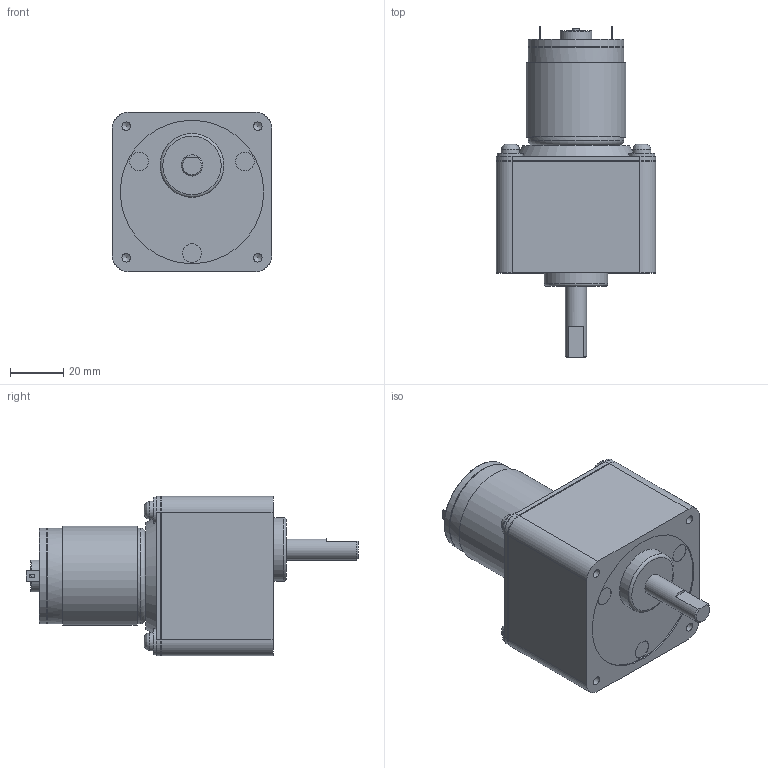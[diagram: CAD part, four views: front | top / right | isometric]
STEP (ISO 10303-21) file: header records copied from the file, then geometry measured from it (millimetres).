
FILE_DESCRIPTION((''),'2;1');
FILE_NAME('C:\Documents and Settings\SSEGAWA\デスクトップ\TP-3640B-CM-4.STP','2013-07-18T17:50:36',('SSEGAWA'),(''),'Autodesk Inventor 2010','Autodesk Inventor 2010','');
FILE_SCHEMA(('CONFIG_CONTROL_DESIGN'));
Length unit declared in the file: millimetre
Products named in the file (1): tp_3640bce_cm_4_Shrinkwrap_1
Bounding box: 60 x 125 x 60 mm (x, y, z)
Volume: 209068.2 mm3; surface area: 24938.8 mm2
Topology: 1 solids, 3 shells, 131 faces, 290 edges, 191 vertices
Faces by surface type: plane 70, cylinder 34, bspline 20, torus 4, cone 3
Full cylindrical faces by diameter (mm): 2.5 x1, 4 x1, 4.5 x1, 6.8 x4, 7 x3, 8 x1, 9.8 x4, 12 x1, 24 x1, 35.6 x1, 36 x2, 54 x1
Entity records: 3732 total; most frequent: CARTESIAN_POINT 931, DIRECTION 546, ORIENTED_EDGE 458, EDGE_CURVE 229, AXIS2_PLACEMENT_3D 207, EDGE_LOOP 205, VERTEX_POINT 174, VECTOR 132
